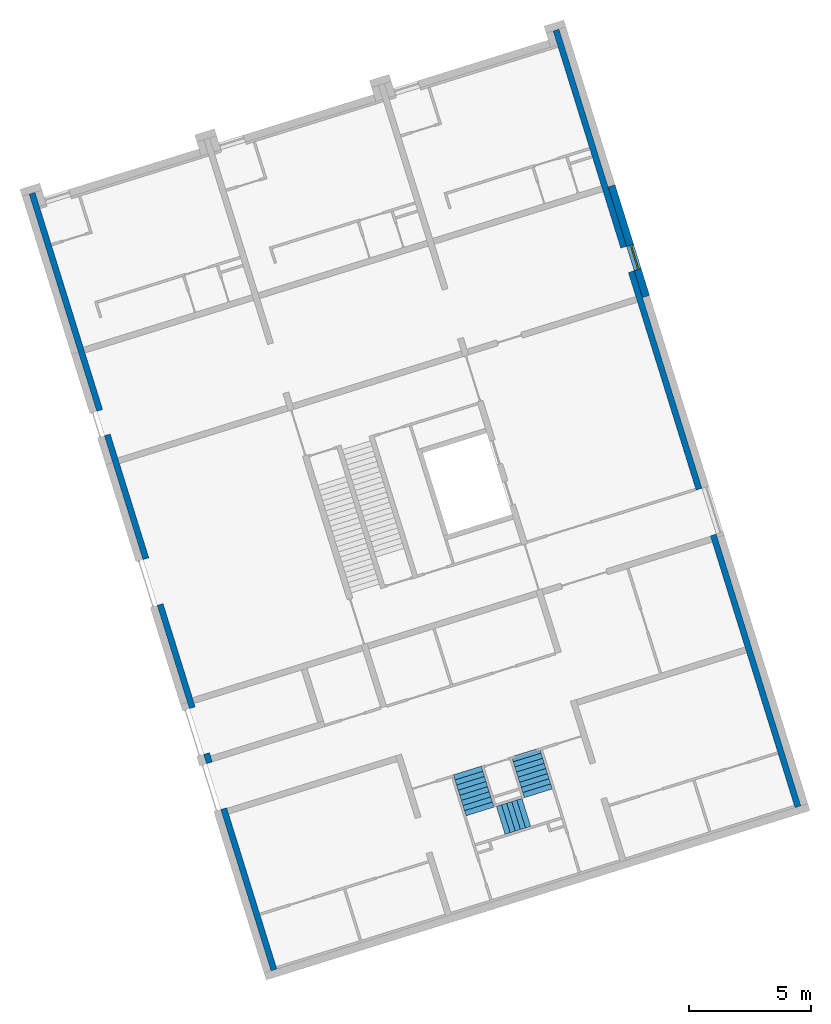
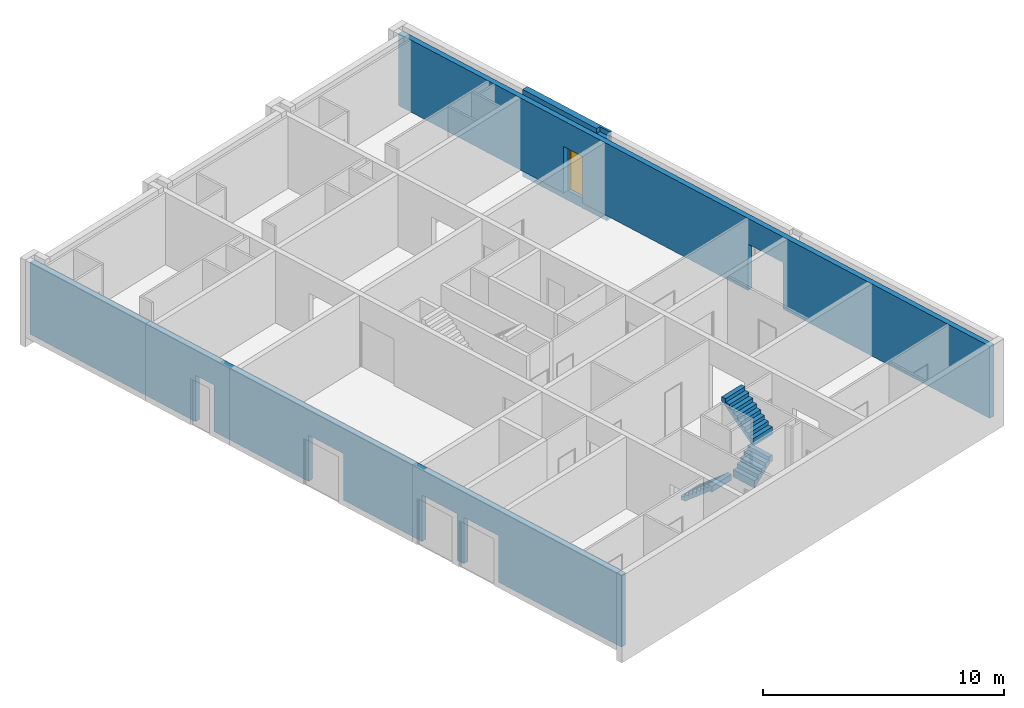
# One storey, part 9 of 10: 3 stair flights, 3 walls, 1 door, 7 openings, 1 element without a shape of its own.
"""IFC4 building model written with IfcOpenShell, lengths in metres."""

from ifc_helpers import new_model, entity, si_unit, converted_unit, direction, frame, origin, place, context, subcontext, project, spatial, indexed_curve, outline, extrude, polygons, source, transform, mapped, material, constituent, constituent_set, type_object, type_shapes, element, fill, aggregate, save


model = new_model("IFC4")

# Units and contexts
model_context = context("Model", 3, precision=1e-05, world=origin(), true_north=direction((6.12323399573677e-17, 1.0)))
body_context = subcontext(model_context, "Body", "Model", "MODEL_VIEW")
ifc_project = project(units=[si_unit("LENGTHUNIT", "METRE"), si_unit("AREAUNIT", "SQUARE_METRE"), converted_unit("PLANEANGLEUNIT", "DEGREE", entity("IfcPlaneAngleMeasure", 0.0174532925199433), si_unit("PLANEANGLEUNIT", "RADIAN"), dimensions=[0, 0, 0, 0, 0, 0, 0]), si_unit("VOLUMEUNIT", "CUBIC_METRE")], contexts=[model_context])

# Site, building, storey
site_placement = place(None, frame((13.1347999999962, 11.9886000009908, 0.0), z_axis=(0.0, 0.0, 1.0), x_axis=(0.954770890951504, 0.297342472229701, 0.0)))
site = spatial("IfcSite", under=ifc_project, at=site_placement, Name="Schiehaven", CompositionType="ELEMENT")
building_placement = place(site_placement, origin())
building = spatial("IfcBuilding", under=site, at=building_placement, Name="VORM huis", CompositionType="ELEMENT")
storey_placement = place(building_placement, origin())
storey = spatial("IfcBuildingStorey", under=building, at=storey_placement, Name="00 begane grond", CompositionType="ELEMENT", Elevation=0.0)

# Wall, openings
ifc_material_1 = material(Name="beton_gewapend_ihw", Category="Miscellaneous")
wall_type_1 = type_object("IfcWallType", Name="Basic Wall:28_WA_skelet_wand 250mm_gen", PredefinedType="STANDARD")
wall_1_placement = place(storey_placement, frame((57.5000000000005, 0.37499999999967, 0.0), z_axis=(0.0, 0.0, 1.0), x_axis=(0.0, 1.0, 0.0)))
wall_1 = element("IfcWall", 1, at=wall_1_placement, inside=storey, type_object=wall_type_1, material=ifc_material_1, Name="Constructieve wand", ObjectType="Wand", PredefinedType="NOTDEFINED", context=body_context, shape_type="Tessellation", body=[
    polygons([(-1.35358391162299e-16, -0.125000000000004, 0.0), (6.92625000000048, -0.125000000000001, 0.0), (6.92625000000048, -0.125000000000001, 2.34999999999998), (8.89125000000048, -0.125000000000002, 2.34999999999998), (8.89125000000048, -0.125000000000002, 0.0), (9.2925000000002, -0.125000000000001, 0.0), (9.2925000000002, -0.125000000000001, 2.34999999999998), (11.2575000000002, -0.125000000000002, 2.34999999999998), (11.2575000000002, -0.125000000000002, 0.0), (15.6925, -0.125000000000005, 0.0), (15.6925, -0.125000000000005, 2.34999999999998), (17.6575, -0.125000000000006, 2.34999999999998), (17.6575, -0.125000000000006, 0.0), (22.9749999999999, -0.124999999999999, 0.0), (22.9749999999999, -0.124999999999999, 2.34999999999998), (24.0249999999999, -0.125000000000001, 2.34999999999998), (24.0249999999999, -0.125000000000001, 0.0), (33.35, -0.124999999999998, 0.0), (33.35, -0.124999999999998, 3.65), (-1.35358391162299e-16, -0.125000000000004, 3.65), (6.92625000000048, 0.125000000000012, 2.34999999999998), (6.92625000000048, 0.125000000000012, 0.0), (1.35358391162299e-16, 0.124999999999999, 0.0), (1.35358391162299e-16, 0.124999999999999, 3.65), (10.9500000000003, 0.124999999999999, 3.65), (11.525, 0.125000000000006, 3.65), (21.825, 0.124999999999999, 3.65), (22.4000000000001, 0.124999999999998, 3.65), (33.35, 0.125000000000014, 3.65), (33.35, 0.125000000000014, 0.0), (26.5749999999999, 0.124999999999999, 0.0), (24.0249999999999, 0.124999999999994, 0.0), (24.0249999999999, 0.124999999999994, 2.34999999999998), (22.9749999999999, 0.125000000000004, 2.34999999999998), (22.9749999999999, 0.125000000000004, 0.0), (21.825, 0.124999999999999, 0.0), (17.6575, 0.124999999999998, 0.0), (17.6575, 0.124999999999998, 2.34999999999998), (15.6925, 0.124999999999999, 2.34999999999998), (15.6925, 0.124999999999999, 0.0), (11.525, 0.125000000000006, 0.0), (11.2575000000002, 0.125000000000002, 0.0), (11.2575000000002, 0.125000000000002, 2.34999999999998), (9.2925000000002, 0.125000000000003, 2.34999999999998), (9.2925000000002, 0.125000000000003, 0.0), (8.89125000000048, 0.124999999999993, 0.0), (8.89125000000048, 0.124999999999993, 2.34999999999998)], [[[1, 2, 3, 4, 5, 6, 7, 8, 9, 10, 11, 12, 13, 14, 15, 16, 17, 18, 19, 20]], [[21, 22, 23, 24, 25, 26, 27, 28, 29, 30, 31, 32, 33, 34, 35, 36, 37, 38, 39, 40, 41, 42, 43, 44, 45, 46, 47]], [[18, 17, 32, 31, 30]], [[19, 18, 30, 29]], [[20, 19, 29, 28, 27, 26, 25, 24]], [[1, 20, 24, 23]], [[35, 34, 15, 14]], [[33, 32, 17, 16]], [[34, 33, 16, 15]], [[13, 12, 38, 37]], [[11, 10, 40, 39]], [[12, 11, 39, 38]], [[9, 8, 43, 42]], [[7, 6, 45, 44]], [[8, 7, 44, 43]], [[5, 4, 47, 46]], [[3, 2, 22, 21]], [[4, 3, 21, 47]], [[23, 22, 2, 1]], [[46, 45, 6, 5]], [[42, 41, 40, 10, 9]], [[37, 36, 35, 14, 13]]], closed=True),
])
opening_1_placement = place(wall_1_placement, origin())
element("IfcOpeningElement", 2, at=opening_1_placement, cuts=wall_1, Name="Vluchtdeur", PredefinedType="OPENING", context=body_context, shape_type="SweptSolid", body=[
    extrude(outline(indexed_curve([(-0.525000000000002, -1.17499999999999), (0.525000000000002, -1.17499999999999), (0.524999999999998, 1.17499999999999), (-0.525000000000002, 1.17499999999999), (-0.525000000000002, -1.17499999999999)], self_intersect=False)), frame((23.4999999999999, -1.39899999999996, 1.17499999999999), z_axis=(0.0, 1.0, 0.0), x_axis=(1.0, 0.0, 0.0)), (0.0, 0.0, 1.0), 3.048),
])
opening_2_placement = place(wall_1_placement, origin())
element("IfcOpeningElement", 3, at=opening_2_placement, cuts=wall_1, Name="Vluchtdeur", PredefinedType="OPENING", context=body_context, shape_type="SweptSolid", body=[
    extrude(outline(indexed_curve([(-1.17499999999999, -0.9825), (1.17499999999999, -0.982500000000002), (1.17499999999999, 0.982500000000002), (-1.17499999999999, 0.982500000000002), (-1.17499999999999, -0.9825)], self_intersect=False)), frame((16.675, -1.39899999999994, 1.17499999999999), z_axis=(0.0, 1.0, 0.0), x_axis=(0.0, 0.0, -1.0)), (0.0, 0.0, 1.0), 3.048),
])
opening_3_placement = place(wall_1_placement, origin())
element("IfcOpeningElement", 4, at=opening_3_placement, cuts=wall_1, Name="Vluchtdeur", PredefinedType="OPENING", context=body_context, shape_type="SweptSolid", body=[
    extrude(outline(indexed_curve([(-1.17499999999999, -0.9825), (1.17499999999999, -0.9825), (1.17499999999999, 0.982500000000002), (-1.17499999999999, 0.982500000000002), (-1.17499999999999, -0.9825)], self_intersect=False)), frame((10.2750000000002, -1.39899999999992, 1.17499999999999), z_axis=(0.0, 1.0, 0.0), x_axis=(0.0, 0.0, -1.0)), (0.0, 0.0, 1.0), 3.048),
])
opening_4_placement = place(wall_1_placement, origin())
element("IfcOpeningElement", 5, at=opening_4_placement, cuts=wall_1, Name="Vluchtdeur", PredefinedType="OPENING", context=body_context, shape_type="SweptSolid", body=[
    extrude(outline(indexed_curve([(-1.17499999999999, -0.982500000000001), (1.17499999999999, -0.982500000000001), (1.17499999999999, 0.982500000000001), (-1.17499999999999, 0.982500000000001), (-1.17499999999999, -0.982500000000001)], self_intersect=False)), frame((7.90875000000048, -1.39899999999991, 1.17499999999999), z_axis=(0.0, 1.0, 0.0), x_axis=(0.0, 0.0, -1.0)), (0.0, 0.0, 1.0), 3.048),
])

wall_2_placement = place(storey_placement, frame((80.0, 0.374999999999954, 0.0), z_axis=(0.0, 0.0, 1.0), x_axis=(0.0, 1.0, 0.0)))
wall_2 = element("IfcWall", 6, at=wall_2_placement, inside=storey, type_object=wall_type_1, material=ifc_material_1, Name="Constructieve wand", ObjectType="Wand", PredefinedType="NOTDEFINED", context=body_context, shape_type="Tessellation", body=[
    polygons([(24.025, -0.125000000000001, 2.34999999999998), (24.025, -0.125000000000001, 0.0), (33.3500000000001, -0.124999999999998, 0.0), (33.3500000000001, -0.124999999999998, 3.65), (22.3999999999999, -0.124999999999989, 3.65), (21.8250000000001, -0.124999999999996, 3.65), (11.525, -0.124999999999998, 3.65), (10.95, -0.124999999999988, 3.65), (-1.35358391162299e-16, -0.124999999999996, 3.65), (-1.35358391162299e-16, -0.124999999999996, 0.0), (11.6675, -0.125000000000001, 0.0), (11.6675, -0.125000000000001, 2.34999999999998), (13.6325, -0.125000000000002, 2.34999999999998), (13.6325, -0.125000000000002, 0.0), (22.975, -0.124999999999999, 0.0), (22.975, -0.124999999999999, 2.34999999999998), (33.3500000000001, 0.124999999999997, 0.0), (24.025, 0.124999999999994, 0.0), (24.025, 0.124999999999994, 2.34999999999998), (22.975, 0.124999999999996, 2.34999999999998), (22.975, 0.124999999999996, 0.0), (13.6325, 0.124999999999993, 0.0), (13.6325, 0.124999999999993, 2.34999999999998), (11.6675, 0.124999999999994, 2.34999999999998), (11.6675, 0.124999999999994, 0.0), (1.35358391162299e-16, 0.124999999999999, 0.0), (1.35358391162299e-16, 0.124999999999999, 3.65), (33.3500000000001, 0.124999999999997, 3.65)], [[[1, 2, 3, 4, 5, 6, 7, 8, 9, 10, 11, 12, 13, 14, 15, 16]], [[17, 18, 19, 20, 21, 22, 23, 24, 25, 26, 27, 28]], [[15, 14, 22, 21]], [[4, 3, 17, 28]], [[9, 8, 7, 6, 5, 4, 28, 27]], [[10, 9, 27, 26]], [[14, 13, 23, 22]], [[12, 11, 25, 24]], [[13, 12, 24, 23]], [[21, 20, 16, 15]], [[19, 18, 2, 1]], [[20, 19, 1, 16]], [[3, 2, 18, 17]], [[26, 25, 11, 10]]], closed=True),
])
opening_5_placement = place(wall_2_placement, origin())
element("IfcOpeningElement", 7, at=opening_5_placement, cuts=wall_2, Name="Vluchtdeur", PredefinedType="OPENING", context=body_context, shape_type="SweptSolid", body=[
    extrude(outline(indexed_curve([(-1.17499999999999, -0.9825), (1.17499999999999, -0.982500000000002), (1.17499999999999, 0.982500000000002), (-1.17499999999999, 0.982500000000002), (-1.17499999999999, -0.9825)], self_intersect=False)), frame((12.65, -1.64900000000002, 1.17499999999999), z_axis=(0.0, 1.0, 0.0), x_axis=(0.0, 0.0, -1.0)), (0.0, 0.0, 1.0), 3.048),
])
opening_6_placement = place(wall_2_placement, origin())
element("IfcOpeningElement", 8, at=opening_6_placement, cuts=wall_2, Name="Vluchtdeur", PredefinedType="OPENING", context=body_context, shape_type="SweptSolid", body=[
    extrude(outline(indexed_curve([(-0.525000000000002, -1.17499999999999), (0.525000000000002, -1.17499999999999), (0.524999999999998, 1.17499999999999), (-0.525000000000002, 1.17499999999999), (-0.525000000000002, -1.17499999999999)], self_intersect=False)), frame((23.5, -1.64900000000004, 1.17499999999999), z_axis=(0.0, 1.0, 0.0), x_axis=(1.0, 0.0, 0.0)), (0.0, 0.0, 1.0), 3.048),
])

# Wall, opening, door
ifc_material_2 = material(Name="ntb_ntb_ntb", Category="Miscellaneous")
wall_type_2 = type_object("IfcWallType", Name="Basic Wall: 300mm_gen", PredefinedType="STANDARD")
wall_3_placement = place(storey_placement, frame((80.2750000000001, 22.2, -0.5), z_axis=(0.0, 0.0, 1.0), x_axis=(0.0, 1.0, 0.0)))
wall_3 = element("IfcWall", 9, at=wall_3_placement, inside=storey, type_object=wall_type_2, material=ifc_material_2, Name="Gevelwand", ObjectType="Wand", PredefinedType="NOTDEFINED", context=body_context, shape_type="Tessellation", body=[
    polygons([(0.0, -0.149999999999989, 0.0), (4.74999999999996, -0.149999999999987, 0.0), (4.74999999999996, -0.149999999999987, 4.4), (0.0, -0.149999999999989, 4.4), (1.14999999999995, -0.149999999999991, 0.5), (1.14999999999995, -0.149999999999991, 2.84999999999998), (2.19999999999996, -0.150000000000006, 2.84999999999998), (2.19999999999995, -0.150000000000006, 0.5), (4.74999999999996, 0.15000000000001, 0.0), (0.0, 0.150000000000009, 0.0), (0.0, 0.150000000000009, 4.15), (0.574999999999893, 0.15, 4.15), (0.574999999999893, 0.15, 4.4), (4.74999999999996, 0.15000000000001, 4.4), (1.14999999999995, 0.150000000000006, 2.84999999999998), (1.14999999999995, 0.150000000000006, 0.5), (2.19999999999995, 0.149999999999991, 0.5), (2.19999999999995, 0.149999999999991, 2.84999999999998), (0.574999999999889, -0.0500000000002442, 4.4), (0.0, -0.0500000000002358, 4.4), (0.0, -0.0500000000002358, 4.15), (0.574999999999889, -0.0500000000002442, 4.15)], [[[1, 2, 3, 4], [5, 6, 7, 8]], [[9, 10, 11, 12, 13, 14], [15, 16, 17, 18]], [[2, 1, 10, 9]], [[3, 2, 9, 14]], [[4, 3, 14, 13, 19, 20]], [[1, 4, 20, 21, 11, 10]], [[21, 22, 12, 11]], [[22, 19, 13, 12]], [[19, 22, 21, 20]], [[16, 15, 6, 5]], [[17, 16, 5, 8]], [[18, 17, 8, 7]], [[15, 18, 7, 6]]], closed=True),
])
opening_7_placement = place(wall_3_placement, frame((2.19999999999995, 0.150000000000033, 0.5)))
opening_7 = element("IfcOpeningElement", 10, at=opening_7_placement, cuts=wall_3, Name="Vluchtdeur", PredefinedType="OPENING", context=body_context, shape_type="SweptSolid", body=[
    extrude(outline(indexed_curve([(2.34999999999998, 1.05), (0.0, 1.05), (0.0, 2.23411390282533e-28), (2.34999999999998, 2.23411390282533e-28), (2.34999999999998, 1.05)], self_intersect=False)), frame((0.0, 0.0, 0.0), z_axis=(0.0, -1.0, 0.0), x_axis=(0.0, 0.0, 1.0)), (0.0, 0.0, 1.0), 0.3),
])
ifc_material_3 = material(Name="PD_a_buitenwandopeningen", Category="Miscellaneous")
ifc_constituent_1 = constituent(ifc_material_3, Name="PD_a_buitenwandopeningen", Category="Miscellaneous")
ifc_material_4 = material(Name="metaal_aluminium_ntb", Category="Miscellaneous")
ifc_constituent_2 = constituent(ifc_material_4, Name="metaal_aluminium_ntb", Category="Miscellaneous")
ifc_constituent_set_1 = constituent_set(constituents=[ifc_constituent_1, ifc_constituent_2])
ifc_constituent_3 = constituent(ifc_material_3, Name="PD_a_buitenwandopeningen", Category="Miscellaneous")
ifc_constituent_4 = constituent(ifc_material_4, Name="Panel", Category="Miscellaneous")
ifc_constituent_set_2 = constituent_set(constituents=[ifc_constituent_3, ifc_constituent_4])
door_type = type_object("IfcDoorType", Name="31_DO_buitendeur enkel:buitendeur zelfsluitend 30min", OperationType="NOTDEFINED", PredefinedType="DOOR", material=ifc_constituent_set_2)
shared_shape = source(origin(), body_context, "Body", "SweptSolid", [
    extrude(outline(indexed_curve([(-1.16249999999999, -0.525000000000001), (1.18749999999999, -0.525), (1.18749999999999, 0.525000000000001), (-1.16249999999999, 0.525), (-1.16249999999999, 0.475), (1.13749999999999, 0.475), (1.13749999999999, -0.475), (-1.16249999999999, -0.475), (-1.16249999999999, -0.525000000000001)], self_intersect=False)), frame((0.525000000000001, 0.130000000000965, 1.16249999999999), z_axis=(0.0, 1.0, 0.0), x_axis=(0.0, 0.0, 1.0)), (0.0, 0.0, 1.0), 0.1),
    extrude(outline(indexed_curve([(-0.025, -0.475), (0.025, -0.475), (0.025, 0.475), (-0.025, 0.475), (-0.025, -0.475)], self_intersect=False)), frame((0.525000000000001, 0.180000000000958, 0.0), z_axis=(0.0, 0.0, 1.0), x_axis=(0.0, 1.0, 0.0)), (0.0, 0.0, 1.0), 2.29999999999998),
])
type_shapes(door_type, [shared_shape])
door_placement = place(opening_7_placement, frame((0.0, 0.0, 0.0), z_axis=(0.0, 0.0, 1.0), x_axis=(-1.0, 0.0, 0.0)))
door = element("IfcDoor", 11, at=door_placement, inside=storey, type_object=door_type, material=ifc_constituent_set_1, Name="Vluchtdeur", ObjectType="Deur", OperationType="NOTDEFINED", OverallHeight=2.34999999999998, OverallWidth=1.05, PredefinedType="DOOR", context=body_context, shape_type="MappedRepresentation", body=[
    mapped(shared_shape, transform((0.0, 0.0, 0.0), scale=1.0)),
])
fill(opening_7, door)

# Stair, stair flights
stair_type = type_object("IfcStairType", Name="Trap", PredefinedType="DOUBLE_RETURN_STAIR")
stair_placement = place(storey_placement, origin())
stair = element("IfcStair", 12, at=stair_placement, inside=storey, type_object=stair_type, Name="Hoofdtrap", ObjectType="Precast Stair:NLRS_24_STR_reguliere trap-woonfunctie-breedte 1200mm_gen", PredefinedType="DOUBLE_RETURN_STAIR")
ifc_material_5 = material(Name="beton_gewapend_prefab-element", Category="Miscellaneous")
stair_flight_type = type_object("IfcStairFlightType", Name="Monolithic Run:NLRS_24_STRR_trap-beton prefab-monolithisch-recht_gen_rsf", PredefinedType="STRAIGHT")
stair_flight_1_placement = place(stair_placement, frame((66.9000000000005, 4.06500000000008, 0.0)))
stair_flight_1 = element("IfcStairFlight", 13, at=stair_flight_1_placement, type_object=stair_flight_type, material=ifc_material_5, Name="Hoofdtrap Run 1", ObjectType="Monolithic Run:NLRS_24_STRR_trap-beton prefab-monolithisch-recht_gen_rsf", PredefinedType="STRAIGHT", context=body_context, shape_type="Tessellation", body=[
    polygons([(1.20000000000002, 1.54, 0.185714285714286), (1.20000000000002, 1.76, 0.185714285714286), (0.0, 1.76, 0.185714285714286), (0.0, 1.54, 0.185714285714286), (1.20000000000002, 1.54, 0.0), (1.20000000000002, 1.76, 0.0), (0.0, 1.76, 0.0), (0.0, 1.54, 0.0), (1.20000000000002, 1.32, 0.371428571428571), (1.20000000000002, 1.54, 0.371428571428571), (0.0, 1.54, 0.371428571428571), (0.0, 1.32, 0.371428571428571), (1.20000000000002, 1.32, 0.175129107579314), (1.20000000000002, 1.52746063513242, 0.0), (0.0, 1.52746063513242, 0.0), (0.0, 1.32, 0.175129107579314), (1.20000000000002, 1.1, 0.557142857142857), (1.20000000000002, 1.32, 0.557142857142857), (0.0, 1.32, 0.557142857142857), (0.0, 1.1, 0.557142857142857), (1.20000000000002, 1.1, 0.3608433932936), (0.0, 1.1, 0.3608433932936), (1.20000000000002, 0.88, 0.742857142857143), (1.20000000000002, 1.1, 0.742857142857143), (0.0, 1.1, 0.742857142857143), (0.0, 0.88, 0.742857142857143), (1.20000000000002, 0.88, 0.546557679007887), (0.0, 0.88, 0.546557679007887), (1.20000000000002, 0.66, 0.928571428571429), (1.20000000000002, 0.88, 0.928571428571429), (0.0, 0.88, 0.928571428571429), (0.0, 0.66, 0.928571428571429), (1.20000000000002, 0.660000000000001, 0.732271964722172), (0.0, 0.660000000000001, 0.732271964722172), (1.20000000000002, 0.44, 1.11428571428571), (1.20000000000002, 0.660000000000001, 1.11428571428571), (0.0, 0.660000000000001, 1.11428571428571), (0.0, 0.44, 1.11428571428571), (1.20000000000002, 0.440000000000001, 0.917986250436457), (0.0, 0.440000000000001, 0.917986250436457), (1.20000000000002, 0.220000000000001, 1.3), (1.20000000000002, 0.44, 1.3), (0.0, 0.44, 1.3), (0.0, 0.220000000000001, 1.3), (1.20000000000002, 0.220000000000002, 1.10370053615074), (0.0, 0.220000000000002, 1.10370053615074), (1.20000000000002, 0.220000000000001, 1.48571428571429), (0.0, 0.220000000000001, 1.48571428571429), (0.0, 0.122845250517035, 1.48571428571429), (0.0, 8.88178419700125e-16, 1.48571428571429), (1.17715474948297, 8.88178419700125e-16, 1.48571428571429), (1.20000000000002, 8.88178419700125e-16, 1.48571428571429), (1.20000000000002, 0.122845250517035, 1.48571428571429), (1.20000000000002, 8.88178419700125e-16, 1.18571428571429), (1.20000000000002, 0.122845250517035, 1.18571428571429), (0.0, 0.122845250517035, 1.18571428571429), (0.0, 8.88178419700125e-16, 1.18571428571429), (1.17715474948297, 8.88178419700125e-16, 1.18571428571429)], [[[1, 2, 3, 4]], [[2, 1, 5, 6]], [[3, 2, 6, 7]], [[4, 3, 7, 8]], [[9, 10, 11, 12]], [[5, 1, 10, 9, 13, 14]], [[1, 4, 11, 10]], [[4, 8, 15, 16, 12, 11]], [[17, 18, 19, 20]], [[18, 17, 21, 13, 9]], [[9, 12, 19, 18]], [[20, 19, 12, 16, 22]], [[23, 24, 25, 26]], [[24, 23, 27, 21, 17]], [[17, 20, 25, 24]], [[26, 25, 20, 22, 28]], [[29, 30, 31, 32]], [[30, 29, 33, 27, 23]], [[23, 26, 31, 30]], [[32, 31, 26, 28, 34]], [[35, 36, 37, 38]], [[36, 35, 39, 33, 29]], [[29, 32, 37, 36]], [[38, 37, 32, 34, 40]], [[41, 42, 43, 44]], [[42, 41, 45, 39, 35]], [[35, 38, 43, 42]], [[44, 43, 38, 40, 46]], [[47, 48, 49, 50, 51, 52, 53]], [[41, 47, 53, 52, 54, 55, 45]], [[41, 44, 48, 47]], [[48, 44, 46, 56, 57, 50, 49]], [[54, 52, 51, 50, 57, 58]], [[6, 5, 14, 15, 8, 7]], [[55, 56, 46, 40, 34, 28, 22, 16, 15, 14, 13, 21, 27, 33, 39, 45]], [[56, 55, 54, 58, 57]]], closed=True),
])
stair_flight_2_placement = place(stair_placement, frame((68.2000000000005, 2.86500000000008, 0.0)))
stair_flight_2 = element("IfcStairFlight", 14, at=stair_flight_2_placement, type_object=stair_flight_type, material=ifc_material_5, Name="Hoofdtrap Run 2", ObjectType="Monolithic Run:NLRS_24_STRR_trap-beton prefab-monolithisch-recht_gen_rsf", PredefinedType="STRAIGHT", context=body_context, shape_type="Tessellation", body=[
    polygons([(0.220000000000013, 1.2, 1.67142857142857), (1.4210854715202e-14, 1.2, 1.67142857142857), (1.4210854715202e-14, 3.10862446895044e-15, 1.67142857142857), (0.220000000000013, 2.66453525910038e-15, 1.67142857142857), (0.220000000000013, 1.2, 1.47512910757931), (1.4210854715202e-14, 1.2, 1.28941482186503), (1.4210854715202e-14, 3.10862446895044e-15, 1.28941482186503), (0.220000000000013, 2.66453525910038e-15, 1.47512910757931), (0.439999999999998, 1.2, 1.85714285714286), (0.220000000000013, 1.2, 1.85714285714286), (0.220000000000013, 2.66453525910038e-15, 1.85714285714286), (0.439999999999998, 2.22044604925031e-15, 1.85714285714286), (0.439999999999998, 1.2, 1.6608433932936), (0.439999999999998, 2.22044604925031e-15, 1.6608433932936), (0.660000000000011, 1.2, 2.04285714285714), (0.439999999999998, 1.2, 2.04285714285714), (0.439999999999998, 1.77635683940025e-15, 2.04285714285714), (0.660000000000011, 1.33226762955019e-15, 2.04285714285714), (0.659999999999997, 1.2, 1.84655767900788), (0.659999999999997, 1.33226762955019e-15, 1.84655767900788), (0.88000000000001, 1.2, 2.22857142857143), (0.659999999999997, 1.2, 2.22857142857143), (0.659999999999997, 1.33226762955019e-15, 2.22857142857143), (0.88000000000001, 4.44089209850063e-16, 2.22857142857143), (0.88000000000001, 1.2, 2.03227196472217), (0.88000000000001, 4.44089209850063e-16, 2.03227196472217), (0.88000000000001, 1.2, 2.41428571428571), (0.88000000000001, 4.44089209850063e-16, 2.41428571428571), (0.977154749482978, 4.44089209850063e-16, 2.41428571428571), (1.10000000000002, 0.0, 2.41428571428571), (1.10000000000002, 1.2, 2.41428571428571), (0.977154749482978, 1.2, 2.41428571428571), (1.10000000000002, 1.2, 2.11428571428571), (0.977154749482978, 1.2, 2.11428571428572), (0.977154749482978, 0.0, 2.11428571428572), (1.10000000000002, 0.0, 2.11428571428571)], [[[1, 2, 3, 4]], [[2, 1, 5, 6]], [[3, 2, 6, 7]], [[4, 3, 7, 8]], [[9, 10, 11, 12]], [[10, 9, 13, 5, 1]], [[11, 10, 1, 4]], [[12, 11, 4, 8, 14]], [[15, 16, 17, 18]], [[16, 15, 19, 13, 9]], [[17, 16, 9, 12]], [[18, 17, 12, 14, 20]], [[21, 22, 23, 24]], [[22, 21, 25, 19, 15]], [[23, 22, 15, 18]], [[24, 23, 18, 20, 26]], [[27, 28, 29, 30, 31, 32]], [[21, 27, 32, 31, 33, 34, 25]], [[28, 27, 21, 24]], [[28, 24, 26, 35, 36, 30, 29]], [[31, 30, 36, 33]], [[34, 35, 26, 20, 14, 8, 7, 6, 5, 13, 19, 25]], [[35, 34, 33, 36]]], closed=True),
])
stair_flight_3_placement = place(stair_placement, frame((69.4000000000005, 4.06500000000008, 0.0)))
stair_flight_3 = element("IfcStairFlight", 15, at=stair_flight_3_placement, type_object=stair_flight_type, material=ifc_material_5, Name="Hoofdtrap Run 3", ObjectType="Monolithic Run:NLRS_24_STRR_trap-beton prefab-monolithisch-recht_gen_rsf", PredefinedType="STRAIGHT", context=body_context, shape_type="Tessellation", body=[
    polygons([(0.0, 0.220000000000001, 2.6), (0.0, 8.88178419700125e-16, 2.6), (1.20000000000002, 8.88178419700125e-16, 2.6), (1.20000000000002, 0.220000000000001, 2.6), (0.0, 0.220000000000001, 2.40370053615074), (0.0, 8.88178419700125e-16, 2.21798625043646), (1.20000000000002, 0.0, 2.21798625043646), (1.20000000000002, 0.220000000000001, 2.40370053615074), (0.0, 0.44, 2.78571428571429), (0.0, 0.220000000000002, 2.78571428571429), (1.20000000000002, 0.220000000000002, 2.78571428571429), (1.20000000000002, 0.44, 2.78571428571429), (0.0, 0.44, 2.58941482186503), (1.20000000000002, 0.44, 2.58941482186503), (0.0, 0.660000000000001, 2.97142857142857), (0.0, 0.44, 2.97142857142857), (1.20000000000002, 0.44, 2.97142857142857), (1.20000000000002, 0.660000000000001, 2.97142857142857), (0.0, 0.660000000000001, 2.77512910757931), (1.20000000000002, 0.660000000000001, 2.77512910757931), (0.0, 0.880000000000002, 3.15714285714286), (0.0, 0.660000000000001, 3.15714285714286), (1.20000000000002, 0.660000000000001, 3.15714285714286), (1.20000000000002, 0.880000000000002, 3.15714285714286), (0.0, 0.880000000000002, 2.9608433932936), (1.20000000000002, 0.880000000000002, 2.9608433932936), (0.0, 1.1, 3.34285714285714), (0.0, 0.880000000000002, 3.34285714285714), (1.20000000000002, 0.880000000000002, 3.34285714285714), (1.20000000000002, 1.1, 3.34285714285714), (0.0, 1.1, 3.14655767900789), (1.20000000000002, 1.1, 3.14655767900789), (0.0, 1.32, 3.52857142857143), (0.0, 1.1, 3.52857142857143), (1.20000000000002, 1.1, 3.52857142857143), (1.20000000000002, 1.32, 3.52857142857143), (0.0, 1.32, 3.33227196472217), (1.20000000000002, 1.32, 3.33227196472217), (0.0, 1.54, 3.71428571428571), (0.0, 1.32, 3.71428571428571), (1.20000000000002, 1.32, 3.71428571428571), (1.20000000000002, 1.54, 3.71428571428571), (0.0, 1.54, 3.51798625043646), (1.20000000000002, 1.54, 3.51798625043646), (0.0, 1.76, 3.9), (0.0, 1.54, 3.9), (1.20000000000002, 1.54, 3.9), (1.20000000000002, 1.76, 3.9), (0.0, 1.76, 3.70370053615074), (1.20000000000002, 1.76, 3.70370053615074)], [[[1, 2, 3, 4]], [[2, 1, 5, 6]], [[3, 2, 6, 7]], [[4, 3, 7, 8]], [[9, 10, 11, 12]], [[10, 9, 13, 5, 1]], [[11, 10, 1, 4]], [[12, 11, 4, 8, 14]], [[15, 16, 17, 18]], [[16, 15, 19, 13, 9]], [[17, 16, 9, 12]], [[18, 17, 12, 14, 20]], [[21, 22, 23, 24]], [[22, 21, 25, 19, 15]], [[23, 22, 15, 18]], [[24, 23, 18, 20, 26]], [[27, 28, 29, 30]], [[28, 27, 31, 25, 21]], [[29, 28, 21, 24]], [[30, 29, 24, 26, 32]], [[33, 34, 35, 36]], [[34, 33, 37, 31, 27]], [[35, 34, 27, 30]], [[36, 35, 30, 32, 38]], [[39, 40, 41, 42]], [[40, 39, 43, 37, 33]], [[41, 40, 33, 36]], [[42, 41, 36, 38, 44]], [[45, 46, 47, 48]], [[46, 45, 49, 43, 39]], [[47, 46, 39, 42]], [[48, 47, 42, 44, 50]], [[45, 48, 50, 49]], [[6, 5, 13, 19, 25, 31, 37, 43, 49, 50, 44, 38, 32, 26, 20, 14, 8, 7]]], closed=True),
])
aggregate(stair, [stair_flight_1, stair_flight_2, stair_flight_3])

save(model, "model.ifc")
